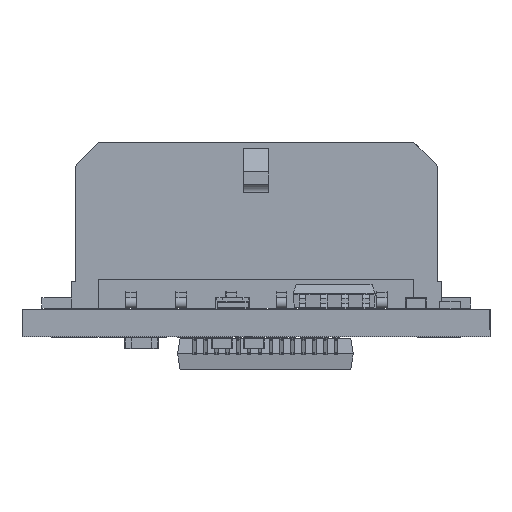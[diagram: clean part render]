
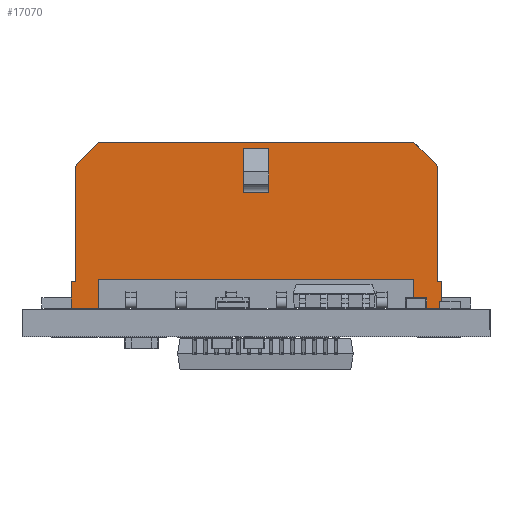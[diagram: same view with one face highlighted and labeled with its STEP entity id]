
A CAD part, left-side view. The second image highlights one B-rep face of the part: STEP entity #17070.
In plain terms, the highlighted planar face has unit normal (-1, 0, 0).
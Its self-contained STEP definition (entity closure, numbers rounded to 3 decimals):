
#543 = CARTESIAN_POINT ( 'NONE',  ( -3.445, -10.845, 1.64 ) ) ;
#544 = LINE ( 'NONE', #104349, #115006 ) ;
#1757 = EDGE_CURVE ( 'NONE', #115226, #18056, #82945, .T. ) ;
#2489 = CARTESIAN_POINT ( 'NONE',  ( -3.445, 10.805, 1.64 ) ) ;
#2872 = CARTESIAN_POINT ( 'NONE',  ( -3.445, 0.73, 9.6 ) ) ;
#3683 = ORIENTED_EDGE ( 'NONE', *, *, #160702, .T. ) ;
#4423 = CARTESIAN_POINT ( 'NONE',  ( -3.445, -10.845, 1.64 ) ) ;
#6760 = ORIENTED_EDGE ( 'NONE', *, *, #24233, .F. ) ;
#7148 = VERTEX_POINT ( 'NONE', #53848 ) ;
#7606 = ORIENTED_EDGE ( 'NONE', *, *, #71372, .F. ) ;
#10953 = FACE_BOUND ( 'NONE', #144356, .T. ) ;
#11718 = LINE ( 'NONE', #58310, #81005 ) ;
#12438 = CARTESIAN_POINT ( 'NONE',  ( -3.445, 10.805, 8.55 ) ) ;
#12515 = CARTESIAN_POINT ( 'NONE',  ( -3.445, 11.055, 0.04 ) ) ;
#13437 = ORIENTED_EDGE ( 'NONE', *, *, #110534, .F. ) ;
#17070 = ADVANCED_FACE ( 'NONE', ( #37170, #10953 ), #56245, .T. ) ;
#18056 = VERTEX_POINT ( 'NONE', #88522 ) ;
#19629 = DIRECTION ( 'NONE',  ( 0., -1., 0. ) ) ;
#21039 = CARTESIAN_POINT ( 'NONE',  ( -3.445, 10.805, 1.64 ) ) ;
#24230 = LINE ( 'NONE', #2489, #74375 ) ;
#24233 = EDGE_CURVE ( 'NONE', #123151, #34909, #36554, .T. ) ;
#24882 = DIRECTION ( 'NONE',  ( -1., 0., 0. ) ) ;
#26720 = LINE ( 'NONE', #543, #165103 ) ;
#29743 = EDGE_CURVE ( 'NONE', #189411, #78854, #155710, .T. ) ;
#32260 = EDGE_CURVE ( 'NONE', #50618, #168964, #24230, .T. ) ;
#33927 = VECTOR ( 'NONE', #172524, 1000. ) ;
#34909 = VERTEX_POINT ( 'NONE', #175493 ) ;
#35317 = DIRECTION ( 'NONE',  ( 0., -1., 0. ) ) ;
#36554 = LINE ( 'NONE', #98553, #96070 ) ;
#37170 = FACE_OUTER_BOUND ( 'NONE', #65233, .T. ) ;
#37983 = CARTESIAN_POINT ( 'NONE',  ( -3.445, 9.405, 9.95 ) ) ;
#38403 = LINE ( 'NONE', #160356, #95634 ) ;
#38578 = DIRECTION ( 'NONE',  ( 0., 1., 0. ) ) ;
#41315 = EDGE_CURVE ( 'NONE', #130528, #123151, #544, .T. ) ;
#43037 = ORIENTED_EDGE ( 'NONE', *, *, #144409, .T. ) ;
#44182 = CARTESIAN_POINT ( 'NONE',  ( -3.445, -10.845, 1.64 ) ) ;
#44213 = ORIENTED_EDGE ( 'NONE', *, *, #1757, .F. ) ;
#44710 = CARTESIAN_POINT ( 'NONE',  ( -3.445, -0.77, 6.95 ) ) ;
#48426 = EDGE_CURVE ( 'NONE', #189411, #183345, #26720, .T. ) ;
#49088 = CARTESIAN_POINT ( 'NONE',  ( -3.445, -0.77, 9.6 ) ) ;
#50618 = VERTEX_POINT ( 'NONE', #177248 ) ;
#51522 = CARTESIAN_POINT ( 'NONE',  ( -3.445, -0.77, 9.6 ) ) ;
#53848 = CARTESIAN_POINT ( 'NONE',  ( -3.445, 10.805, 8.55 ) ) ;
#54492 = LINE ( 'NONE', #12438, #97308 ) ;
#55064 = ORIENTED_EDGE ( 'NONE', *, *, #91622, .T. ) ;
#55181 = LINE ( 'NONE', #49088, #90957 ) ;
#56245 = PLANE ( 'NONE',  #185941 ) ;
#57162 = LINE ( 'NONE', #191791, #190779 ) ;
#57536 = CARTESIAN_POINT ( 'NONE',  ( -3.445, -10.845, 0.04 ) ) ;
#58310 = CARTESIAN_POINT ( 'NONE',  ( -3.445, -9.445, 9.95 ) ) ;
#59988 = ORIENTED_EDGE ( 'NONE', *, *, #194611, .F. ) ;
#61121 = DIRECTION ( 'NONE',  ( 0., -0.707, 0.707 ) ) ;
#65233 = EDGE_LOOP ( 'NONE', ( #141219, #126917, #99830, #157426, #59988, #43037, #95247, #13437, #183885, #7606, #55064, #3683, #6760, #114188 ) ) ;
#66226 = LINE ( 'NONE', #113508, #73449 ) ;
#70481 = LINE ( 'NONE', #140705, #137285 ) ;
#70676 = DIRECTION ( 'NONE',  ( 0., 0., 1. ) ) ;
#71372 = EDGE_CURVE ( 'NONE', #152383, #168964, #196813, .T. ) ;
#73449 = VECTOR ( 'NONE', #19629, 1000. ) ;
#74375 = VECTOR ( 'NONE', #139920, 1000. ) ;
#78854 = VERTEX_POINT ( 'NONE', #115014 ) ;
#78895 = DIRECTION ( 'NONE',  ( 0., 0., -1. ) ) ;
#79807 = CARTESIAN_POINT ( 'NONE',  ( -3.445, -11.095, 1.64 ) ) ;
#80503 = DIRECTION ( 'NONE',  ( 0., 1., 0. ) ) ;
#81005 = VECTOR ( 'NONE', #118301, 1000. ) ;
#81766 = LINE ( 'NONE', #87984, #117490 ) ;
#82129 = DIRECTION ( 'NONE',  ( 0., 0., -1. ) ) ;
#82945 = LINE ( 'NONE', #96858, #118668 ) ;
#84332 = VERTEX_POINT ( 'NONE', #44710 ) ;
#87984 = CARTESIAN_POINT ( 'NONE',  ( -3.445, 9.405, 0.04 ) ) ;
#88522 = CARTESIAN_POINT ( 'NONE',  ( -3.445, 0.73, 6.95 ) ) ;
#89917 = VECTOR ( 'NONE', #172443, 1000. ) ;
#90256 = EDGE_CURVE ( 'NONE', #183345, #113493, #38403, .T. ) ;
#90957 = VECTOR ( 'NONE', #125766, 1000. ) ;
#91622 = EDGE_CURVE ( 'NONE', #152383, #175899, #70481, .T. ) ;
#95247 = ORIENTED_EDGE ( 'NONE', *, *, #195490, .F. ) ;
#95634 = VECTOR ( 'NONE', #143640, 1000. ) ;
#96070 = VECTOR ( 'NONE', #38578, 1000. ) ;
#96571 = VERTEX_POINT ( 'NONE', #37983 ) ;
#96858 = CARTESIAN_POINT ( 'NONE',  ( -3.445, 0.73, 9.6 ) ) ;
#97308 = VECTOR ( 'NONE', #61121, 1000. ) ;
#98553 = CARTESIAN_POINT ( 'NONE',  ( -3.445, -9.445, 1.79 ) ) ;
#99830 = ORIENTED_EDGE ( 'NONE', *, *, #48426, .F. ) ;
#103277 = CARTESIAN_POINT ( 'NONE',  ( -3.445, -9.445, 1.79 ) ) ;
#104349 = CARTESIAN_POINT ( 'NONE',  ( -3.445, -9.445, 0.04 ) ) ;
#109260 = VECTOR ( 'NONE', #80503, 1000. ) ;
#110534 = EDGE_CURVE ( 'NONE', #50618, #7148, #187746, .T. ) ;
#111981 = ORIENTED_EDGE ( 'NONE', *, *, #124964, .T. ) ;
#113493 = VERTEX_POINT ( 'NONE', #117271 ) ;
#113508 = CARTESIAN_POINT ( 'NONE',  ( -3.445, -9.445, 0.04 ) ) ;
#114188 = ORIENTED_EDGE ( 'NONE', *, *, #41315, .F. ) ;
#115006 = VECTOR ( 'NONE', #197786, 1000. ) ;
#115014 = CARTESIAN_POINT ( 'NONE',  ( -3.445, -10.845, 8.55 ) ) ;
#115226 = VERTEX_POINT ( 'NONE', #2872 ) ;
#117271 = CARTESIAN_POINT ( 'NONE',  ( -3.445, -11.095, 0.04 ) ) ;
#117490 = VECTOR ( 'NONE', #70676, 1000. ) ;
#118301 = DIRECTION ( 'NONE',  ( 0., -0.707, -0.707 ) ) ;
#118336 = DIRECTION ( 'NONE',  ( 0., 0., 1. ) ) ;
#118668 = VECTOR ( 'NONE', #78895, 1000. ) ;
#122258 = VECTOR ( 'NONE', #82129, 1000. ) ;
#123151 = VERTEX_POINT ( 'NONE', #103277 ) ;
#124964 = EDGE_CURVE ( 'NONE', #84332, #18056, #57162, .T. ) ;
#125766 = DIRECTION ( 'NONE',  ( 0., 1., 0. ) ) ;
#126917 = ORIENTED_EDGE ( 'NONE', *, *, #90256, .F. ) ;
#127955 = CARTESIAN_POINT ( 'NONE',  ( -3.445, -9.445, 0.04 ) ) ;
#130528 = VERTEX_POINT ( 'NONE', #127955 ) ;
#131074 = DIRECTION ( 'NONE',  ( 0., 1., 0. ) ) ;
#137285 = VECTOR ( 'NONE', #35317, 1000. ) ;
#138672 = DIRECTION ( 'NONE',  ( 0., -1., 0. ) ) ;
#139920 = DIRECTION ( 'NONE',  ( 0., 1., 0. ) ) ;
#140705 = CARTESIAN_POINT ( 'NONE',  ( -3.445, 11.055, 0.04 ) ) ;
#141219 = ORIENTED_EDGE ( 'NONE', *, *, #146931, .T. ) ;
#143640 = DIRECTION ( 'NONE',  ( 0., 0., -1. ) ) ;
#144356 = EDGE_LOOP ( 'NONE', ( #111981, #44213, #156280, #172617 ) ) ;
#144409 = EDGE_CURVE ( 'NONE', #172311, #96571, #190481, .T. ) ;
#146878 = CARTESIAN_POINT ( 'NONE',  ( -3.445, -0.77, 9.6 ) ) ;
#146931 = EDGE_CURVE ( 'NONE', #130528, #113493, #66226, .T. ) ;
#147002 = VERTEX_POINT ( 'NONE', #146878 ) ;
#152383 = VERTEX_POINT ( 'NONE', #12515 ) ;
#155710 = LINE ( 'NONE', #4423, #33927 ) ;
#156219 = VECTOR ( 'NONE', #118336, 1000. ) ;
#156280 = ORIENTED_EDGE ( 'NONE', *, *, #175381, .F. ) ;
#157426 = ORIENTED_EDGE ( 'NONE', *, *, #29743, .T. ) ;
#160356 = CARTESIAN_POINT ( 'NONE',  ( -3.445, -11.095, 1.64 ) ) ;
#160702 = EDGE_CURVE ( 'NONE', #175899, #34909, #81766, .T. ) ;
#162296 = DIRECTION ( 'NONE',  ( 0., 0., 1. ) ) ;
#165103 = VECTOR ( 'NONE', #138672, 1000. ) ;
#166164 = CARTESIAN_POINT ( 'NONE',  ( -3.445, -9.445, 9.95 ) ) ;
#168964 = VERTEX_POINT ( 'NONE', #197710 ) ;
#172311 = VERTEX_POINT ( 'NONE', #166164 ) ;
#172443 = DIRECTION ( 'NONE',  ( 0., 0., 1. ) ) ;
#172472 = LINE ( 'NONE', #51522, #122258 ) ;
#172524 = DIRECTION ( 'NONE',  ( 0., 0., 1. ) ) ;
#172617 = ORIENTED_EDGE ( 'NONE', *, *, #175057, .T. ) ;
#175057 = EDGE_CURVE ( 'NONE', #147002, #84332, #172472, .T. ) ;
#175381 = EDGE_CURVE ( 'NONE', #147002, #115226, #55181, .T. ) ;
#175493 = CARTESIAN_POINT ( 'NONE',  ( -3.445, 9.405, 1.79 ) ) ;
#175899 = VERTEX_POINT ( 'NONE', #188233 ) ;
#177248 = CARTESIAN_POINT ( 'NONE',  ( -3.445, 10.805, 1.64 ) ) ;
#177795 = CARTESIAN_POINT ( 'NONE',  ( -3.445, 11.055, 0.04 ) ) ;
#183345 = VERTEX_POINT ( 'NONE', #79807 ) ;
#183885 = ORIENTED_EDGE ( 'NONE', *, *, #32260, .T. ) ;
#185941 = AXIS2_PLACEMENT_3D ( 'NONE', #57536, #24882, #162296 ) ;
#187221 = CARTESIAN_POINT ( 'NONE',  ( -3.445, -9.445, 9.95 ) ) ;
#187746 = LINE ( 'NONE', #21039, #89917 ) ;
#188233 = CARTESIAN_POINT ( 'NONE',  ( -3.445, 9.405, 0.04 ) ) ;
#189411 = VERTEX_POINT ( 'NONE', #44182 ) ;
#190481 = LINE ( 'NONE', #187221, #109260 ) ;
#190779 = VECTOR ( 'NONE', #131074, 1000. ) ;
#191791 = CARTESIAN_POINT ( 'NONE',  ( -3.445, -0.77, 6.95 ) ) ;
#194611 = EDGE_CURVE ( 'NONE', #172311, #78854, #11718, .T. ) ;
#195490 = EDGE_CURVE ( 'NONE', #7148, #96571, #54492, .T. ) ;
#196813 = LINE ( 'NONE', #177795, #156219 ) ;
#197710 = CARTESIAN_POINT ( 'NONE',  ( -3.445, 11.055, 1.64 ) ) ;
#197786 = DIRECTION ( 'NONE',  ( 0., 0., 1. ) ) ;
